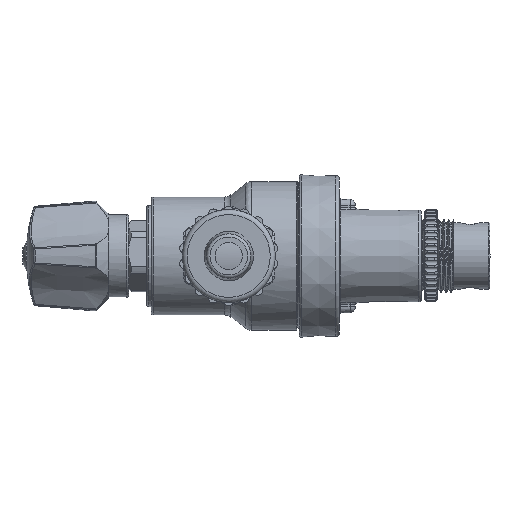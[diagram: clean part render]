
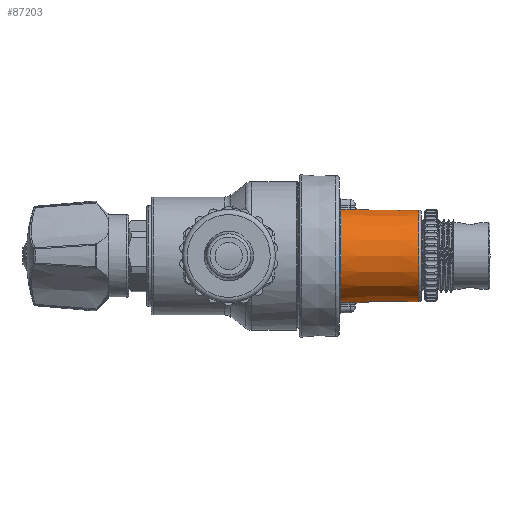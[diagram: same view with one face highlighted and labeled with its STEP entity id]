
A CAD part, front view. The second image highlights one B-rep face of the part: STEP entity #87203.
In plain terms, the highlighted conical face has half-angle 1 degrees and reference radius 14.25 mm.
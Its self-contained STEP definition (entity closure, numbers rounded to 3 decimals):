
#138=CONICAL_SURFACE('',#84668,14.25,1.);
#796=CIRCLE('',#84666,14.241);
#798=CIRCLE('',#84669,13.831);
#799=CIRCLE('',#84670,13.831);
#800=CIRCLE('',#84671,14.241);
#801=CIRCLE('',#84672,14.158);
#802=CIRCLE('',#84673,14.158);
#803=CIRCLE('',#84674,14.241);
#1805=(
BOUNDED_CURVE()
B_SPLINE_CURVE(2,(#27973,#27974,#27975),.UNSPECIFIED.,.U.,.U.)
B_SPLINE_CURVE_WITH_KNOTS((3,3),(0.,1.),.UNSPECIFIED.)
CURVE()
GEOMETRIC_REPRESENTATION_ITEM()
RATIONAL_B_SPLINE_CURVE((1.,1.,1.))
REPRESENTATION_ITEM('')
);
#1807=(
BOUNDED_CURVE()
B_SPLINE_CURVE(2,(#27994,#27995,#27996),.UNSPECIFIED.,.U.,.U.)
B_SPLINE_CURVE_WITH_KNOTS((3,3),(0.,1.),.UNSPECIFIED.)
CURVE()
GEOMETRIC_REPRESENTATION_ITEM()
RATIONAL_B_SPLINE_CURVE((1.,1.,1.))
REPRESENTATION_ITEM('')
);
#1808=(
BOUNDED_CURVE()
B_SPLINE_CURVE(3,(#27998,#27999,#28000,#28001,#28002),.UNSPECIFIED.,.U.,
 .U.)
B_SPLINE_CURVE_WITH_KNOTS((4,1,4),(0.,0.138,0.323),
 .UNSPECIFIED.)
CURVE()
GEOMETRIC_REPRESENTATION_ITEM()
RATIONAL_B_SPLINE_CURVE((1.,1.,1.,1.,1.))
REPRESENTATION_ITEM('')
);
#1809=(
BOUNDED_CURVE()
B_SPLINE_CURVE(3,(#28005,#28006,#28007,#28008,#28009),.UNSPECIFIED.,.U.,
 .U.)
B_SPLINE_CURVE_WITH_KNOTS((4,1,4),(0.,0.138,0.323),
 .UNSPECIFIED.)
CURVE()
GEOMETRIC_REPRESENTATION_ITEM()
RATIONAL_B_SPLINE_CURVE((1.,1.,1.,1.,1.))
REPRESENTATION_ITEM('')
);
#1810=(
BOUNDED_CURVE()
B_SPLINE_CURVE(2,(#28011,#28012,#28013),.UNSPECIFIED.,.U.,.U.)
B_SPLINE_CURVE_WITH_KNOTS((3,3),(0.,1.),.UNSPECIFIED.)
CURVE()
GEOMETRIC_REPRESENTATION_ITEM()
RATIONAL_B_SPLINE_CURVE((1.,1.,1.))
REPRESENTATION_ITEM('')
);
#1811=(
BOUNDED_CURVE()
B_SPLINE_CURVE(3,(#28015,#28016,#28017,#28018,#28019),.UNSPECIFIED.,.U.,
 .U.)
B_SPLINE_CURVE_WITH_KNOTS((4,1,4),(0.,0.138,0.323),
 .UNSPECIFIED.)
CURVE()
GEOMETRIC_REPRESENTATION_ITEM()
RATIONAL_B_SPLINE_CURVE((1.,1.,1.,1.,1.))
REPRESENTATION_ITEM('')
);
#1812=(
BOUNDED_CURVE()
B_SPLINE_CURVE(3,(#28023,#28024,#28025,#28026,#28027),.UNSPECIFIED.,.U.,
 .U.)
B_SPLINE_CURVE_WITH_KNOTS((4,1,4),(0.,0.138,0.323),
 .UNSPECIFIED.)
CURVE()
GEOMETRIC_REPRESENTATION_ITEM()
RATIONAL_B_SPLINE_CURVE((1.,1.,1.,1.,1.))
REPRESENTATION_ITEM('')
);
#1813=(
BOUNDED_CURVE()
B_SPLINE_CURVE(2,(#28029,#28030,#28031),.UNSPECIFIED.,.U.,.U.)
B_SPLINE_CURVE_WITH_KNOTS((3,3),(0.,1.),.UNSPECIFIED.)
CURVE()
GEOMETRIC_REPRESENTATION_ITEM()
RATIONAL_B_SPLINE_CURVE((1.,1.,1.))
REPRESENTATION_ITEM('')
);
#3638=ORIENTED_EDGE('',*,*,#13614,.F.);
#3639=ORIENTED_EDGE('',*,*,#13615,.F.);
#3640=ORIENTED_EDGE('',*,*,#13616,.F.);
#3641=ORIENTED_EDGE('',*,*,#13617,.F.);
#3642=ORIENTED_EDGE('',*,*,#13618,.F.);
#3643=ORIENTED_EDGE('',*,*,#13619,.F.);
#3644=ORIENTED_EDGE('',*,*,#13620,.F.);
#3645=ORIENTED_EDGE('',*,*,#13609,.F.);
#3646=ORIENTED_EDGE('',*,*,#13612,.F.);
#3647=ORIENTED_EDGE('',*,*,#13621,.F.);
#3648=ORIENTED_EDGE('',*,*,#13622,.F.);
#3649=ORIENTED_EDGE('',*,*,#13623,.F.);
#3650=ORIENTED_EDGE('',*,*,#13624,.F.);
#3651=ORIENTED_EDGE('',*,*,#13625,.F.);
#3652=ORIENTED_EDGE('',*,*,#13626,.F.);
#11419=VERTEX_POINT('',#27968);
#11420=VERTEX_POINT('',#27972);
#11421=VERTEX_POINT('',#27982);
#11422=VERTEX_POINT('',#27986);
#11423=VERTEX_POINT('',#27987);
#11424=VERTEX_POINT('',#27990);
#11425=VERTEX_POINT('',#27991);
#11426=VERTEX_POINT('',#27993);
#11427=VERTEX_POINT('',#27997);
#11428=VERTEX_POINT('',#28003);
#11429=VERTEX_POINT('',#28010);
#11430=VERTEX_POINT('',#28014);
#11431=VERTEX_POINT('',#28020);
#11432=VERTEX_POINT('',#28022);
#11433=VERTEX_POINT('',#28028);
#13609=EDGE_CURVE('',#11419,#11420,#1805,.T.);
#13612=EDGE_CURVE('',#11421,#11419,#796,.T.);
#13614=EDGE_CURVE('',#11422,#11423,#798,.T.);
#13615=EDGE_CURVE('',#11423,#11422,#799,.T.);
#13616=EDGE_CURVE('',#11424,#11425,#800,.T.);
#13617=EDGE_CURVE('',#11426,#11424,#1807,.T.);
#13618=EDGE_CURVE('',#11427,#11426,#1808,.T.);
#13619=EDGE_CURVE('',#11428,#11427,#801,.T.);
#13620=EDGE_CURVE('',#11420,#11428,#1809,.T.);
#13621=EDGE_CURVE('',#11429,#11421,#1810,.T.);
#13622=EDGE_CURVE('',#11430,#11429,#1811,.T.);
#13623=EDGE_CURVE('',#11431,#11430,#802,.T.);
#13624=EDGE_CURVE('',#11432,#11431,#1812,.T.);
#13625=EDGE_CURVE('',#11433,#11432,#1813,.T.);
#13626=EDGE_CURVE('',#11425,#11433,#803,.T.);
#16851=EDGE_LOOP('',(#3638,#3639));
#16852=EDGE_LOOP('',(#3640,#3641,#3642,#3643,#3644,#3645,#3646,#3647,#3648,
#3649,#3650,#3651,#3652));
#18279=FACE_BOUND('',#16851,.T.);
#18280=FACE_BOUND('',#16852,.T.);
#19797=DIRECTION('',(-1.,0.,0.));
#19798=DIRECTION('',(0.,14.241,0.));
#19801=DIRECTION('',(-1.,0.,0.));
#19802=DIRECTION('',(0.,1.,0.));
#19803=DIRECTION('',(1.,0.,0.));
#19804=DIRECTION('',(0.,13.831,0.));
#19805=DIRECTION('',(1.,0.,0.));
#19806=DIRECTION('',(0.,13.831,0.));
#19807=DIRECTION('',(-1.,0.,0.));
#19808=DIRECTION('',(0.,-14.241,0.));
#19809=DIRECTION('',(-1.,0.,0.));
#19810=DIRECTION('',(0.,0.,-14.158));
#19811=DIRECTION('',(-1.,0.,0.));
#19812=DIRECTION('',(0.,0.,14.158));
#19813=DIRECTION('',(-1.,0.,0.));
#19814=DIRECTION('',(0.,-14.241,0.));
#27968=CARTESIAN_POINT('',(33.819,2.399,-14.038));
#27972=CARTESIAN_POINT('',(36.592,2.305,-14.005));
#27973=CARTESIAN_POINT('',(33.819,2.399,-14.038));
#27974=CARTESIAN_POINT('',(35.205,2.352,-14.021));
#27975=CARTESIAN_POINT('',(36.592,2.305,-14.005));
#27982=CARTESIAN_POINT('',(33.819,2.399,14.038));
#27983=CARTESIAN_POINT('',(33.819,0.,0.));
#27985=CARTESIAN_POINT('',(33.327,0.,0.));
#27986=CARTESIAN_POINT('',(57.341,0.,13.831));
#27987=CARTESIAN_POINT('',(57.341,-13.831,0.));
#27988=CARTESIAN_POINT('',(57.341,0.,0.));
#27989=CARTESIAN_POINT('',(57.341,0.,0.));
#27990=CARTESIAN_POINT('',(33.819,-2.399,-14.038));
#27991=CARTESIAN_POINT('',(33.819,-14.241,0.));
#27992=CARTESIAN_POINT('',(33.819,0.,0.));
#27993=CARTESIAN_POINT('',(36.592,-2.305,-14.005));
#27994=CARTESIAN_POINT('',(36.592,-2.305,-14.005));
#27995=CARTESIAN_POINT('',(35.205,-2.352,-14.021));
#27996=CARTESIAN_POINT('',(33.819,-2.399,-14.038));
#27997=CARTESIAN_POINT('',(38.619,-0.277,-14.155));
#27998=CARTESIAN_POINT('',(38.619,-0.277,-14.155));
#27999=CARTESIAN_POINT('',(38.619,-0.723,-14.146));
#28000=CARTESIAN_POINT('',(38.252,-1.761,-14.074));
#28001=CARTESIAN_POINT('',(37.207,-2.284,-13.997));
#28002=CARTESIAN_POINT('',(36.592,-2.305,-14.005));
#28003=CARTESIAN_POINT('',(38.619,0.277,-14.155));
#28004=CARTESIAN_POINT('',(38.619,0.,0.));
#28005=CARTESIAN_POINT('',(36.592,2.305,-14.005));
#28006=CARTESIAN_POINT('',(37.053,2.289,-13.999));
#28007=CARTESIAN_POINT('',(38.116,1.898,-14.053));
#28008=CARTESIAN_POINT('',(38.619,0.872,-14.143));
#28009=CARTESIAN_POINT('',(38.619,0.277,-14.155));
#28010=CARTESIAN_POINT('',(36.592,2.305,14.005));
#28011=CARTESIAN_POINT('',(36.592,2.305,14.005));
#28012=CARTESIAN_POINT('',(35.205,2.352,14.021));
#28013=CARTESIAN_POINT('',(33.819,2.399,14.038));
#28014=CARTESIAN_POINT('',(38.619,0.277,14.155));
#28015=CARTESIAN_POINT('',(38.619,0.277,14.155));
#28016=CARTESIAN_POINT('',(38.619,0.723,14.146));
#28017=CARTESIAN_POINT('',(38.252,1.761,14.074));
#28018=CARTESIAN_POINT('',(37.207,2.284,13.997));
#28019=CARTESIAN_POINT('',(36.592,2.305,14.005));
#28020=CARTESIAN_POINT('',(38.619,-0.277,14.155));
#28021=CARTESIAN_POINT('',(38.619,0.,0.));
#28022=CARTESIAN_POINT('',(36.592,-2.305,14.005));
#28023=CARTESIAN_POINT('',(36.592,-2.305,14.005));
#28024=CARTESIAN_POINT('',(37.053,-2.289,13.999));
#28025=CARTESIAN_POINT('',(38.116,-1.898,14.053));
#28026=CARTESIAN_POINT('',(38.619,-0.872,14.143));
#28027=CARTESIAN_POINT('',(38.619,-0.277,14.155));
#28028=CARTESIAN_POINT('',(33.819,-2.399,14.038));
#28029=CARTESIAN_POINT('',(33.819,-2.399,14.038));
#28030=CARTESIAN_POINT('',(35.205,-2.352,14.021));
#28031=CARTESIAN_POINT('',(36.592,-2.305,14.005));
#28032=CARTESIAN_POINT('',(33.819,0.,0.));
#84666=AXIS2_PLACEMENT_3D('',#27983,#19797,#19798);
#84668=AXIS2_PLACEMENT_3D('',#27985,#19801,#19802);
#84669=AXIS2_PLACEMENT_3D('',#27988,#19803,#19804);
#84670=AXIS2_PLACEMENT_3D('',#27989,#19805,#19806);
#84671=AXIS2_PLACEMENT_3D('',#27992,#19807,#19808);
#84672=AXIS2_PLACEMENT_3D('',#28004,#19809,#19810);
#84673=AXIS2_PLACEMENT_3D('',#28021,#19811,#19812);
#84674=AXIS2_PLACEMENT_3D('',#28032,#19813,#19814);
#87203=ADVANCED_FACE('',(#18279,#18280),#138,.T.);
